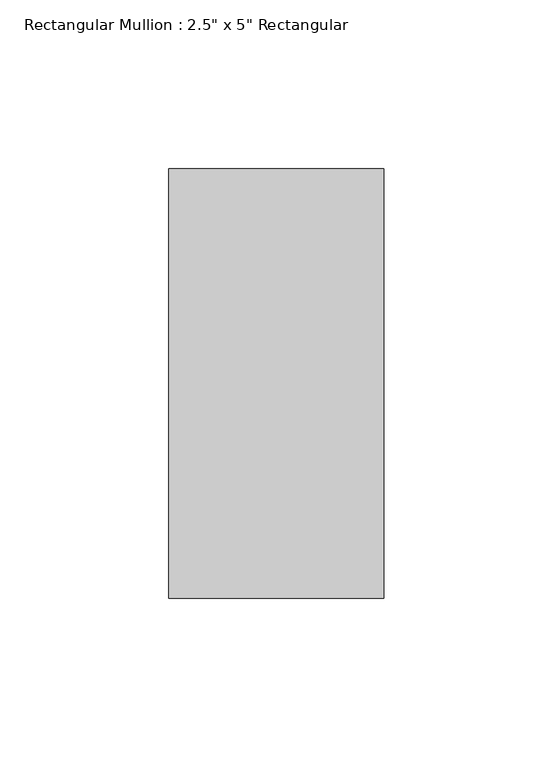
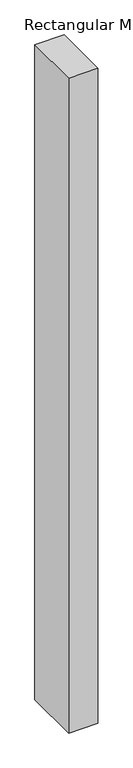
"""IFC4 building model written with IfcOpenShell, lengths in millimetres: member geometry."""

from ifc_helpers import new_model, si_unit, frame, origin, place, context, project, spatial, polyline, outline, extrude, source, transform, mapped, element, save


def member_1c7aa2bc(model_context):
    return source(origin(), model_context, "Body", "SweptSolid", [
        extrude(outline(polyline([(0.0, 63.5), (0.0, -63.5), (-63.5, -63.5), (-63.5, 63.5), (0.0, 63.5)])), frame((0.0, 0.0, -1505.0973557), z_axis=(0.0, 0.0, 1.0), x_axis=(1.0, 0.0, 0.0)), (0.0, 0.0, 1.0), 1505.0973557),
    ])


if __name__ == "__main__":
    model = new_model("IFC4")
    model_context = context("Model", 3, world=origin())
    ifc_project = project(units=[si_unit("LENGTHUNIT", "METRE", prefix="MILLI")], contexts=[model_context])
    site = spatial("IfcSite", under=ifc_project)
    building = spatial("IfcBuilding", under=site)
    placement = place(None, origin())
    member_shape = member_1c7aa2bc(model_context)
    element("IfcMember", 1, ObjectType="Rectangular Mullion : 2.5\" x 5\" Rectangular", at=placement, inside=building, context=model_context, shape_type="MappedRepresentation", body=[
        mapped(member_shape, transform((0.0, 0.0, 0.0), x_axis=(1.0, 0.0, 0.0), y_axis=(0.0, 1.0, 0.0), z_axis=(0.0, 0.0, 1.0))),
    ])
    save(model, "model.ifc")
